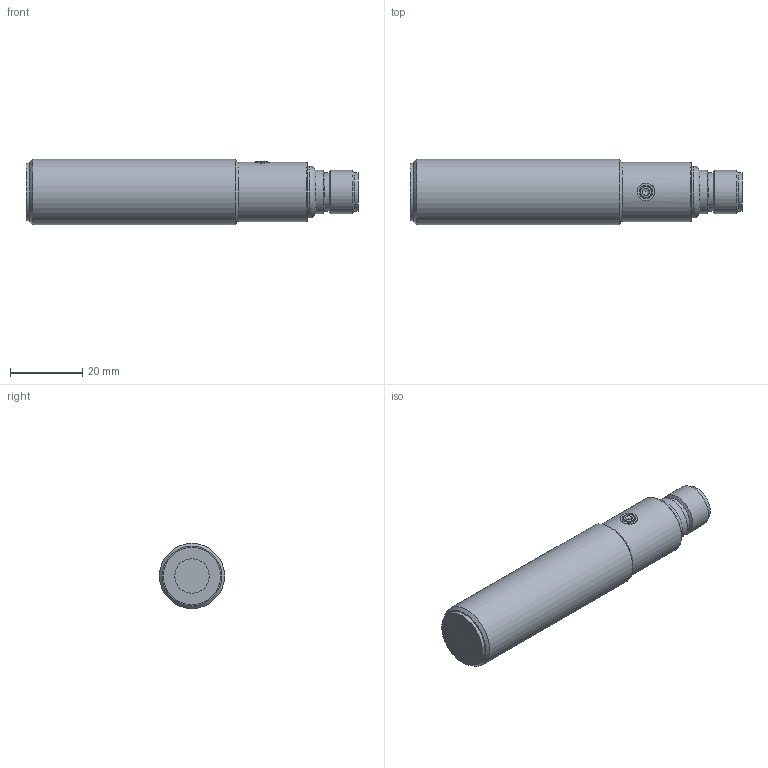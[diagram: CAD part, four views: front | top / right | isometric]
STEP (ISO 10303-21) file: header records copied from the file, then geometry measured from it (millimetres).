
FILE_DESCRIPTION(/* description */ ('Unknown'),/* implementation_level */ '2;1');
FILE_NAME(/* name */ 'UK1_1E_ELO',/* time_stamp */ '2017-11-15T14:17:13+01:00',/* author */ ('Unknown'),/* organization */ ('Unknown'),/* preprocessor_version */ 'ST-DEVELOPER v16.7',/* originating_system */ 'DEX',/* authorisation */ $);
FILE_SCHEMA (('AUTOMOTIVE_DESIGN {1 0 10303 214 3 1 1}'));
Length unit declared in the file: millimetre
Products named in the file (1): Parte1
Bounding box: 91.6 x 18 x 18 mm (x, y, z)
Volume: 19863.3 mm3; surface area: 5768.2 mm2
Topology: 2 solids, 2 shells, 55 faces, 115 edges, 68 vertices
Faces by surface type: cylinder 21, plane 15, cone 10, sphere 5, torus 4
Full cylindrical faces by diameter (mm): 1 x4, 2.7 x1, 3.3 x1, 3.6 x1, 4.7 x1, 8.3 x1, 9.5 x1, 10.5 x2, 12 x2, 14.2 x1, 15.8 x1, 16.4 x1, 18 x1
Entity records: 1519 total; most frequent: DIRECTION 222, CARTESIAN_POINT 193, ORIENTED_EDGE 126, AXIS2_PLACEMENT_3D 107, EDGE_LOOP 99, FACE_BOUND 99, EDGE_CURVE 63, VERTEX_POINT 56
